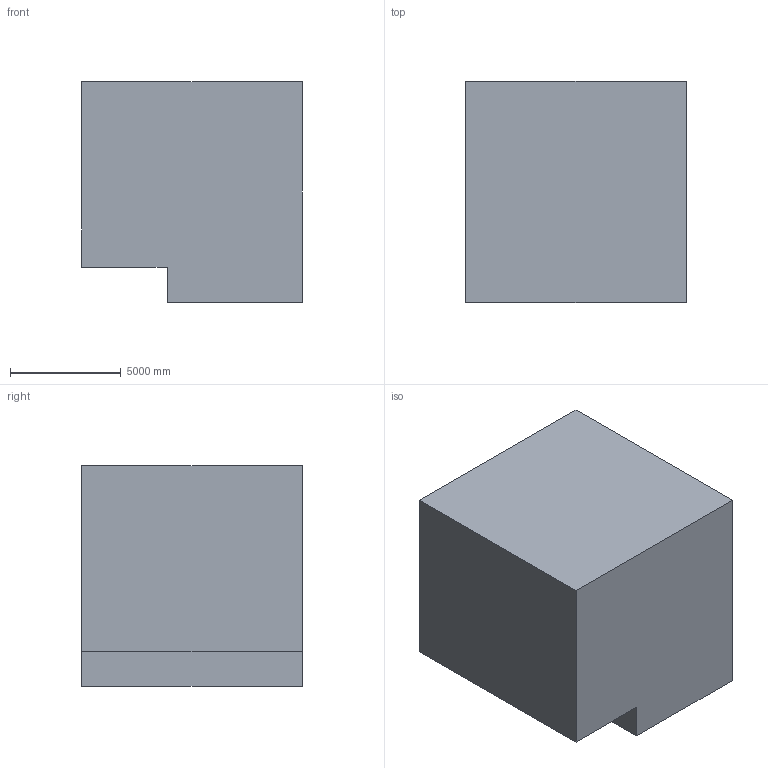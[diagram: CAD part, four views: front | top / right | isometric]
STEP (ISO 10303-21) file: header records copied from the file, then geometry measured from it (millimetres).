
FILE_DESCRIPTION (( 'STEP AP203' ), '1' );
FILE_NAME ('23.STEP', '2022-08-31T11:11:43', ( 'user' ), ( '' ), 'SwSTEP 2.0', 'SolidWorks 2021', '' );
FILE_SCHEMA (( 'CONFIG_CONTROL_DESIGN' ));
Length unit declared in the file: centimetre
Products named in the file (1): 23
Bounding box: 10000 x 10000 x 10000 mm (x, y, z)
Volume: 898753234574.5 mm3; surface area: 666928680 mm2
Topology: 1 solids, 1 shells, 12 faces, 27 edges, 18 vertices
Faces by surface type: plane 12
Entity records: 408 total; most frequent: CARTESIAN_POINT 58, ORIENTED_EDGE 54, DIRECTION 53, VECTOR 27, EDGE_CURVE 27, LINE 27, VERTEX_POINT 18, EDGE_LOOP 13
